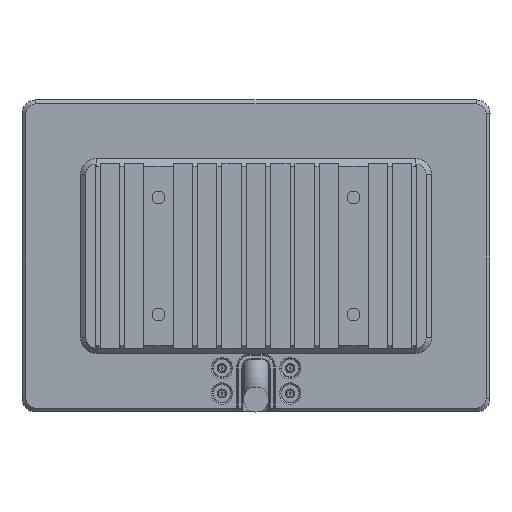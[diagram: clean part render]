
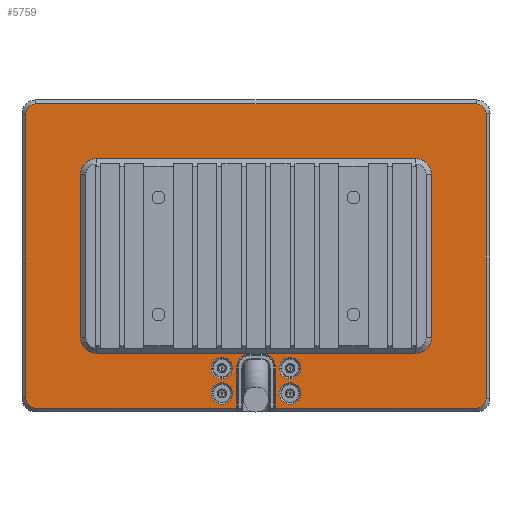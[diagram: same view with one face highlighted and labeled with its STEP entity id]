
A CAD part, left-side view. The second image highlights one B-rep face of the part: STEP entity #5759.
In plain terms, the highlighted planar face has unit normal (-1, 0, 0).
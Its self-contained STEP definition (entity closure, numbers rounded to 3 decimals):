
#82=FACE_BOUND('',#1146,.T.);
#83=FACE_BOUND('',#1147,.T.);
#84=FACE_BOUND('',#1148,.T.);
#85=FACE_BOUND('',#1149,.T.);
#474=PLANE('',#6332);
#781=FACE_OUTER_BOUND('',#1145,.T.);
#1145=EDGE_LOOP('',(#4820,#4821,#4822,#4823,#4824,#4825,#4826,#4827,#4828,
#4829,#4830,#4831,#4832,#4833,#4834,#4835,#4836,#4837,#4838,#4839,#4840,
#4841));
#1146=EDGE_LOOP('',(#4842));
#1147=EDGE_LOOP('',(#4843));
#1148=EDGE_LOOP('',(#4844));
#1149=EDGE_LOOP('',(#4845));
#1505=LINE('',#10109,#1954);
#1545=LINE('',#10191,#1994);
#1548=LINE('',#10196,#1997);
#1558=LINE('',#10216,#2007);
#1566=LINE('',#10254,#2015);
#1569=LINE('',#10262,#2018);
#1572=LINE('',#10270,#2021);
#1576=LINE('',#10279,#2025);
#1578=LINE('',#10283,#2027);
#1579=LINE('',#10286,#2028);
#1580=LINE('',#10289,#2029);
#1581=LINE('',#10293,#2030);
#1954=VECTOR('',#7506,10.);
#1994=VECTOR('',#7548,10.);
#1997=VECTOR('',#7551,10.);
#2007=VECTOR('',#7563,10.);
#2015=VECTOR('',#7609,10.);
#2018=VECTOR('',#7618,10.);
#2021=VECTOR('',#7627,10.);
#2025=VECTOR('',#7637,10.);
#2027=VECTOR('',#7641,10.);
#2028=VECTOR('',#7644,10.);
#2029=VECTOR('',#7649,10.);
#2030=VECTOR('',#7654,10.);
#2350=CIRCLE('',#6294,4.);
#2353=CIRCLE('',#6298,4.);
#2363=CIRCLE('',#6320,2.5);
#2364=CIRCLE('',#6323,2.5);
#2365=CIRCLE('',#6326,2.5);
#2366=CIRCLE('',#6329,2.5);
#2367=CIRCLE('',#6333,3.75);
#2368=CIRCLE('',#6334,4.);
#2369=CIRCLE('',#6335,4.);
#2370=CIRCLE('',#6336,3.75);
#2371=CIRCLE('',#6337,2.75);
#2372=CIRCLE('',#6338,2.75);
#2373=CIRCLE('',#6339,2.75);
#2374=CIRCLE('',#6340,2.75);
#2705=VERTEX_POINT('',#10082);
#2706=VERTEX_POINT('',#10084);
#2710=VERTEX_POINT('',#10093);
#2711=VERTEX_POINT('',#10095);
#2715=VERTEX_POINT('',#10107);
#2755=VERTEX_POINT('',#10188);
#2756=VERTEX_POINT('',#10190);
#2757=VERTEX_POINT('',#10193);
#2758=VERTEX_POINT('',#10195);
#2767=VERTEX_POINT('',#10215);
#2776=VERTEX_POINT('',#10247);
#2777=VERTEX_POINT('',#10249);
#2778=VERTEX_POINT('',#10253);
#2779=VERTEX_POINT('',#10257);
#2780=VERTEX_POINT('',#10261);
#2781=VERTEX_POINT('',#10265);
#2782=VERTEX_POINT('',#10269);
#2783=VERTEX_POINT('',#10273);
#2784=VERTEX_POINT('',#10277);
#2785=VERTEX_POINT('',#10281);
#2786=VERTEX_POINT('',#10285);
#2787=VERTEX_POINT('',#10291);
#2788=VERTEX_POINT('',#10294);
#2789=VERTEX_POINT('',#10296);
#2790=VERTEX_POINT('',#10298);
#2791=VERTEX_POINT('',#10300);
#3405=EDGE_CURVE('',#2705,#2706,#2350,.T.);
#3410=EDGE_CURVE('',#2710,#2711,#2353,.T.);
#3416=EDGE_CURVE('',#2715,#2710,#1505,.T.);
#3456=EDGE_CURVE('',#2755,#2756,#1545,.T.);
#3459=EDGE_CURVE('',#2757,#2758,#1548,.T.);
#3469=EDGE_CURVE('',#2706,#2767,#1558,.T.);
#3484=EDGE_CURVE('',#2776,#2777,#2363,.T.);
#3486=EDGE_CURVE('',#2777,#2778,#1566,.T.);
#3488=EDGE_CURVE('',#2778,#2779,#2364,.T.);
#3490=EDGE_CURVE('',#2779,#2780,#1569,.T.);
#3492=EDGE_CURVE('',#2780,#2781,#2365,.T.);
#3494=EDGE_CURVE('',#2781,#2782,#1572,.T.);
#3496=EDGE_CURVE('',#2782,#2783,#2366,.T.);
#3499=EDGE_CURVE('',#2784,#2776,#1576,.T.);
#3501=EDGE_CURVE('',#2783,#2785,#1578,.T.);
#3502=EDGE_CURVE('',#2786,#2784,#1579,.T.);
#3503=EDGE_CURVE('',#2756,#2786,#2367,.T.);
#3504=EDGE_CURVE('',#2767,#2755,#2368,.T.);
#3505=EDGE_CURVE('',#2711,#2705,#1580,.T.);
#3506=EDGE_CURVE('',#2758,#2715,#2369,.T.);
#3507=EDGE_CURVE('',#2787,#2757,#2370,.T.);
#3508=EDGE_CURVE('',#2785,#2787,#1581,.T.);
#3509=EDGE_CURVE('',#2788,#2788,#2371,.T.);
#3510=EDGE_CURVE('',#2789,#2789,#2372,.T.);
#3511=EDGE_CURVE('',#2790,#2790,#2373,.T.);
#3512=EDGE_CURVE('',#2791,#2791,#2374,.T.);
#4820=ORIENTED_EDGE('',*,*,#3502,.F.);
#4821=ORIENTED_EDGE('',*,*,#3503,.F.);
#4822=ORIENTED_EDGE('',*,*,#3456,.F.);
#4823=ORIENTED_EDGE('',*,*,#3504,.F.);
#4824=ORIENTED_EDGE('',*,*,#3469,.F.);
#4825=ORIENTED_EDGE('',*,*,#3405,.F.);
#4826=ORIENTED_EDGE('',*,*,#3505,.F.);
#4827=ORIENTED_EDGE('',*,*,#3410,.F.);
#4828=ORIENTED_EDGE('',*,*,#3416,.F.);
#4829=ORIENTED_EDGE('',*,*,#3506,.F.);
#4830=ORIENTED_EDGE('',*,*,#3459,.F.);
#4831=ORIENTED_EDGE('',*,*,#3507,.F.);
#4832=ORIENTED_EDGE('',*,*,#3508,.F.);
#4833=ORIENTED_EDGE('',*,*,#3501,.F.);
#4834=ORIENTED_EDGE('',*,*,#3496,.F.);
#4835=ORIENTED_EDGE('',*,*,#3494,.F.);
#4836=ORIENTED_EDGE('',*,*,#3492,.F.);
#4837=ORIENTED_EDGE('',*,*,#3490,.F.);
#4838=ORIENTED_EDGE('',*,*,#3488,.F.);
#4839=ORIENTED_EDGE('',*,*,#3486,.F.);
#4840=ORIENTED_EDGE('',*,*,#3484,.F.);
#4841=ORIENTED_EDGE('',*,*,#3499,.F.);
#4842=ORIENTED_EDGE('',*,*,#3509,.T.);
#4843=ORIENTED_EDGE('',*,*,#3510,.T.);
#4844=ORIENTED_EDGE('',*,*,#3511,.T.);
#4845=ORIENTED_EDGE('',*,*,#3512,.T.);
#5759=ADVANCED_FACE('',(#781,#82,#83,#84,#85),#474,.T.);
#6294=AXIS2_PLACEMENT_3D('',#10085,#7487,#7488);
#6298=AXIS2_PLACEMENT_3D('',#10096,#7497,#7498);
#6320=AXIS2_PLACEMENT_3D('',#10250,#7604,#7605);
#6323=AXIS2_PLACEMENT_3D('',#10258,#7613,#7614);
#6326=AXIS2_PLACEMENT_3D('',#10266,#7622,#7623);
#6329=AXIS2_PLACEMENT_3D('',#10274,#7631,#7632);
#6332=AXIS2_PLACEMENT_3D('',#10284,#7642,#7643);
#6333=AXIS2_PLACEMENT_3D('',#10287,#7645,#7646);
#6334=AXIS2_PLACEMENT_3D('',#10288,#7647,#7648);
#6335=AXIS2_PLACEMENT_3D('',#10290,#7650,#7651);
#6336=AXIS2_PLACEMENT_3D('',#10292,#7652,#7653);
#6337=AXIS2_PLACEMENT_3D('',#10295,#7655,#7656);
#6338=AXIS2_PLACEMENT_3D('',#10297,#7657,#7658);
#6339=AXIS2_PLACEMENT_3D('',#10299,#7659,#7660);
#6340=AXIS2_PLACEMENT_3D('',#10301,#7661,#7662);
#7487=DIRECTION('center_axis',(-1.,0.,0.));
#7488=DIRECTION('ref_axis',(0.,0.707,0.707));
#7497=DIRECTION('center_axis',(-1.,0.,0.));
#7498=DIRECTION('ref_axis',(0.,-0.707,0.707));
#7506=DIRECTION('',(0.,0.,1.));
#7548=DIRECTION('',(0.,-1.,0.));
#7551=DIRECTION('',(0.,-1.,0.));
#7563=DIRECTION('',(0.,0.,-1.));
#7604=DIRECTION('center_axis',(1.,0.,0.));
#7605=DIRECTION('ref_axis',(0.,1.,0.));
#7609=DIRECTION('',(0.,0.,1.));
#7613=DIRECTION('center_axis',(1.,0.,0.));
#7614=DIRECTION('ref_axis',(0.,0.,1.));
#7618=DIRECTION('',(0.,-1.,0.));
#7622=DIRECTION('center_axis',(1.,0.,0.));
#7623=DIRECTION('ref_axis',(0.,-1.,0.));
#7627=DIRECTION('',(0.,0.,-1.));
#7631=DIRECTION('center_axis',(1.,0.,0.));
#7632=DIRECTION('ref_axis',(0.,0.,-1.));
#7637=DIRECTION('',(0.,1.,0.));
#7641=DIRECTION('',(0.,1.,0.));
#7642=DIRECTION('center_axis',(-1.,0.,0.));
#7643=DIRECTION('ref_axis',(0.,-1.,0.));
#7644=DIRECTION('',(0.,0.,-1.));
#7645=DIRECTION('center_axis',(-1.,0.,0.));
#7646=DIRECTION('ref_axis',(0.,0.707,0.707));
#7647=DIRECTION('center_axis',(-1.,0.,0.));
#7648=DIRECTION('ref_axis',(0.,0.707,-0.707));
#7649=DIRECTION('',(0.,1.,0.));
#7650=DIRECTION('center_axis',(-1.,0.,0.));
#7651=DIRECTION('ref_axis',(0.,-0.707,-0.707));
#7652=DIRECTION('center_axis',(-1.,0.,0.));
#7653=DIRECTION('ref_axis',(0.,-0.707,0.707));
#7654=DIRECTION('',(0.,0.,1.));
#7655=DIRECTION('center_axis',(1.,0.,0.));
#7656=DIRECTION('ref_axis',(0.,-1.,0.));
#7657=DIRECTION('center_axis',(1.,0.,0.));
#7658=DIRECTION('ref_axis',(0.,-1.,0.));
#7659=DIRECTION('center_axis',(1.,0.,0.));
#7660=DIRECTION('ref_axis',(0.,-1.,0.));
#7661=DIRECTION('center_axis',(1.,0.,0.));
#7662=DIRECTION('ref_axis',(0.,-1.,0.));
#10082=CARTESIAN_POINT('',(0.,41.,25.));
#10084=CARTESIAN_POINT('',(0.,45.,21.));
#10085=CARTESIAN_POINT('Origin',(0.,41.,21.));
#10093=CARTESIAN_POINT('',(0.,-45.,21.));
#10095=CARTESIAN_POINT('',(0.,-41.,25.));
#10096=CARTESIAN_POINT('Origin',(0.,-41.,21.));
#10107=CARTESIAN_POINT('',(0.,-45.,-21.));
#10109=CARTESIAN_POINT('',(0.,-45.,-12.5));
#10188=CARTESIAN_POINT('',(0.,41.,-25.));
#10190=CARTESIAN_POINT('',(0.,1.25,-25.));
#10191=CARTESIAN_POINT('',(0.,22.5,-25.));
#10193=CARTESIAN_POINT('',(0.,-1.25,-25.));
#10195=CARTESIAN_POINT('',(0.,-41.,-25.));
#10196=CARTESIAN_POINT('',(0.,22.5,-25.));
#10215=CARTESIAN_POINT('',(0.,45.,-21.));
#10216=CARTESIAN_POINT('',(0.,45.,12.5));
#10247=CARTESIAN_POINT('',(0.,56.5,-39.));
#10249=CARTESIAN_POINT('',(0.,59.,-36.5));
#10250=CARTESIAN_POINT('Origin',(0.,56.5,-36.5));
#10253=CARTESIAN_POINT('',(0.,59.,36.5));
#10254=CARTESIAN_POINT('',(0.,59.,18.25));
#10257=CARTESIAN_POINT('',(0.,56.5,39.));
#10258=CARTESIAN_POINT('Origin',(0.,56.5,36.5));
#10261=CARTESIAN_POINT('',(0.,-56.5,39.));
#10262=CARTESIAN_POINT('',(0.,-28.25,39.));
#10265=CARTESIAN_POINT('',(0.,-59.,36.5));
#10266=CARTESIAN_POINT('Origin',(0.,-56.5,
36.5));
#10269=CARTESIAN_POINT('',(0.,-59.,-36.5));
#10270=CARTESIAN_POINT('',(0.,-59.,-18.25));
#10273=CARTESIAN_POINT('',(0.,-56.5,-39.));
#10274=CARTESIAN_POINT('Origin',(0.,-56.5,
-36.5));
#10277=CARTESIAN_POINT('',(0.,5.,-39.));
#10279=CARTESIAN_POINT('',(0.,28.25,-39.));
#10281=CARTESIAN_POINT('',(0.,-5.,-39.));
#10283=CARTESIAN_POINT('',(0.,28.25,-39.));
#10284=CARTESIAN_POINT('Origin',(0.,0.,0.));
#10285=CARTESIAN_POINT('',(0.,5.,-28.75));
#10286=CARTESIAN_POINT('',(0.,5.,-14.87));
#10287=CARTESIAN_POINT('Origin',(0.,1.25,-28.75));
#10288=CARTESIAN_POINT('Origin',(0.,41.,-21.));
#10289=CARTESIAN_POINT('',(0.,-22.5,25.));
#10290=CARTESIAN_POINT('Origin',(0.,-41.,-21.));
#10291=CARTESIAN_POINT('',(0.,-5.,-28.75));
#10292=CARTESIAN_POINT('Origin',(0.,-1.25,
-28.75));
#10293=CARTESIAN_POINT('',(0.,-5.,-14.87));
#10294=CARTESIAN_POINT('',(0.,-6.,-28.75));
#10295=CARTESIAN_POINT('Origin',(0.,-8.75,
-28.75));
#10296=CARTESIAN_POINT('',(0.,11.5,-28.75));
#10297=CARTESIAN_POINT('Origin',(0.,8.75,-28.75));
#10298=CARTESIAN_POINT('',(0.,11.5,-35.25));
#10299=CARTESIAN_POINT('Origin',(0.,8.75,-35.25));
#10300=CARTESIAN_POINT('',(0.,-6.,-35.25));
#10301=CARTESIAN_POINT('Origin',(0.,-8.75,
-35.25));
